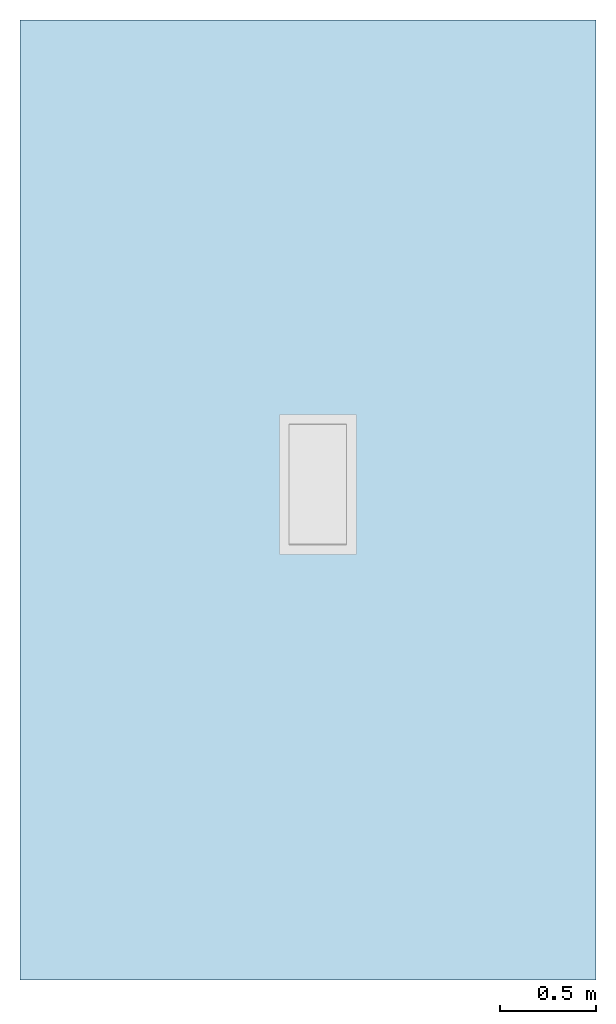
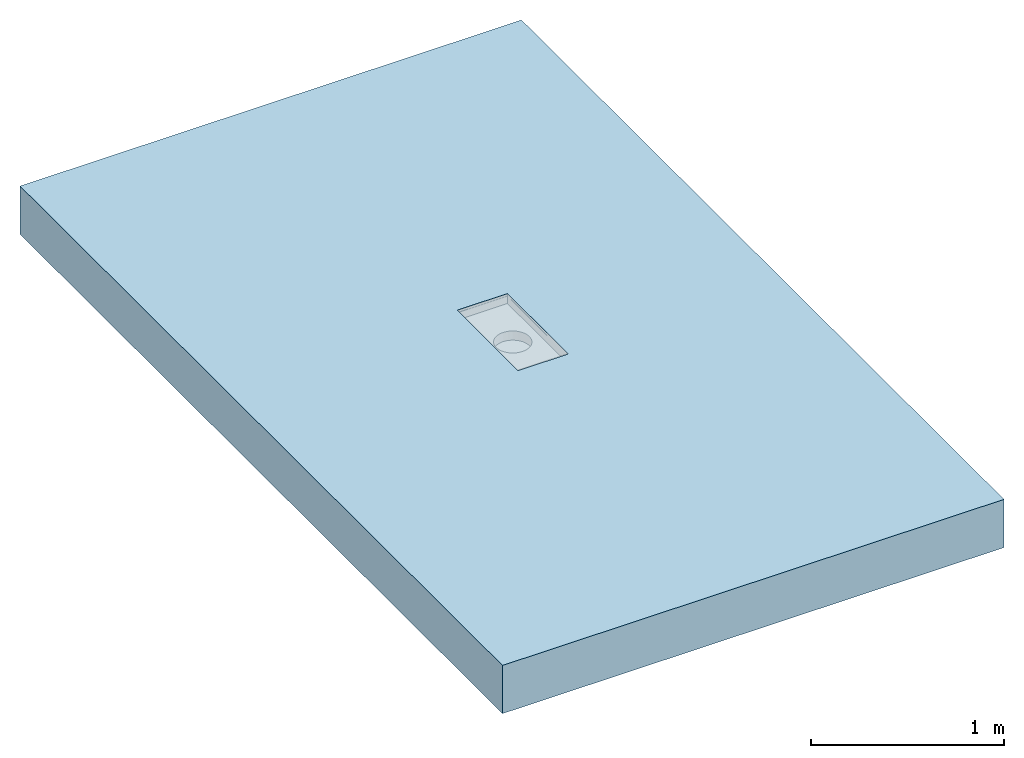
# One storey, incomplete: 1 slab, 1 opening.
"""IFC2X3 building model written with IfcOpenShell, lengths in millimetres."""

from ifc_helpers import new_model, entity, si_unit, converted_unit, derived_unit, direction, frame, frame_2d, origin, place, context, subcontext, project, spatial, rectangle, extrude, faceted_brep, material, layer, layer_set, layer_usage, element, save


model = new_model("IFC2X3")

# Units and contexts
model_context = context("Model", 3, precision=1e-05, world=origin(), true_north=direction((2.0, 6.12303176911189e-17, 1.0)))
context_of_model = context(None, 3, precision=1e-05, world=origin(), true_north=direction((2.0, 6.12303176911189e-17, 1.0)))
body_context = subcontext(model_context, "Body", "Model", "MODEL_VIEW")
ifc_project = project(units=[si_unit("LENGTHUNIT", "METRE", prefix="MILLI"), converted_unit("AREAUNIT", "SQUARE FOOT", entity("IfcRatioMeasure", 0.09290304), si_unit("AREAUNIT", "SQUARE_METRE"), dimensions=[2, 0, 0, 0, 0, 0, 0]), converted_unit("VOLUMEUNIT", "CUBIC FOOT", entity("IfcRatioMeasure", 0.028316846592), si_unit("VOLUMEUNIT", "CUBIC_METRE"), dimensions=[3, 0, 0, 0, 0, 0, 0]), converted_unit("PLANEANGLEUNIT", "DEGREE", entity("IfcRatioMeasure", 0.0174532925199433), si_unit("PLANEANGLEUNIT", "RADIAN"), dimensions=[0, 0, 0, 0, 0, 0, 0]), si_unit("MASSUNIT", "GRAM", prefix="KILO"), si_unit("TIMEUNIT", "SECOND"), si_unit("THERMODYNAMICTEMPERATUREUNIT", "KELVIN"), derived_unit("THERMALTRANSMITTANCEUNIT", [(si_unit("MASSUNIT", "GRAM", prefix="KILO"), 1), (si_unit("THERMODYNAMICTEMPERATUREUNIT", "KELVIN"), -1), (si_unit("TIMEUNIT", "SECOND"), -3)]), derived_unit("VOLUMETRICFLOWRATEUNIT", [(si_unit("LENGTHUNIT", "METRE"), 3), (si_unit("TIMEUNIT", "SECOND"), -1)]), si_unit("POWERUNIT", "WATT")], contexts=[model_context, context_of_model])

# Site, building, storey
site_placement = place(None, origin())
site = spatial("IfcSite", under=ifc_project, at=site_placement, Name="Default", CompositionType="ELEMENT")
building_placement = place(site_placement, origin())
building = spatial("IfcBuilding", under=site, at=building_placement, CompositionType="ELEMENT")
storey_placement = place(building_placement, origin())
storey = spatial("IfcBuildingStorey", under=building, at=storey_placement, Name="Level 1", CompositionType="ELEMENT", Elevation=0.0)

# Slab, opening
ifc_material = material(Name="Default Floor")
ifc_layer = layer(ifc_material, 304.8)
ifc_layer_set = layer_set([ifc_layer], Name="Floor:Generic - 12\"")
ifc_layer_usage = layer_usage(ifc_layer_set, "AXIS3", "POSITIVE", 0.0)
slab_placement = place(storey_placement, frame((-2592.42688678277, 381.838531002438, -304.8)))
slab = element("IfcSlab", 1, at=slab_placement, inside=storey, material=ifc_layer_usage, Name="Floor:Generic - 12\"", ObjectType="Floor:Generic - 12\"", PredefinedType="FLOOR", context=body_context, shape_type="SweptSolid", body=[
    extrude(rectangle(XDim=5000.0, YDim=3000.0, at=frame_2d((0.0, 0.0), x_axis=(0.0, -1.0))), frame((1500.0, 2500.0, 304.8), z_axis=(0.0, 0.0, -1.0), x_axis=(-1.0, 0.0, 0.0)), (0.0, 0.0, 1.0), 304.8),
])
opening_placement = place(slab_placement, frame((1351.43050141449, 2216.3260104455, 184.151793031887)))
element("IfcOpeningElement", 2, at=opening_placement, cuts=slab, ObjectType="Recess", context=body_context, shape_type="Brep", body=[
    faceted_brep([(350.0, 50.0, 57.8482069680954), (350.0, 50.0, 104.148206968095), (50.0, 50.0, 57.8482069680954), (50.0, 50.0, 104.148206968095), (350.0, 50.0, 105.648206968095), (350.0, 50.0, 120.648206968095), (50.0, 50.0, 105.648206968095), (50.0, 50.0, 120.648206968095), (50.0, 680.0, 105.648206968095), (50.0, 680.0, 120.648206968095), (50.0, 680.0, 57.8482069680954), (50.0, 680.0, 104.148206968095), (350.0, 680.0, 57.8482069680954), (350.0, 680.0, 104.148206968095), (350.0, 680.0, 120.648206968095), (350.0, 680.0, 105.648206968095), (150.0, 278.397459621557, 57.8482069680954), (174.118095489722, 268.407417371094, 57.8482069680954), (129.289321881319, 294.289321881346, 57.8482069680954), (200.0, 265.0, 57.8482069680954), (100.0, 365.0, 57.8482069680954), (103.407417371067, 339.118095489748, 57.8482069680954), (113.39745962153, 315.0, 57.8482069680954), (225.881904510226, 268.407417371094, 57.8482069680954), (250.0, 278.397459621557, 57.8482069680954), (270.710678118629, 294.289321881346, 57.8482069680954), (286.602540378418, 315.0, 57.8482069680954), (296.59258262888, 339.118095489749, 57.8482069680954), (300.0, 365.0, 57.8482069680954), (113.39745962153, 415.0, 57.8482069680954), (103.407417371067, 390.881904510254, 57.8482069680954), (129.28932188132, 435.710678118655, 57.8482069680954), (150.0, 451.602540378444, 57.8482069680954), (174.118095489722, 461.592582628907, 57.8482069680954), (200.0, 465.0, 57.8482069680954), (296.592582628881, 390.881904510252, 57.8482069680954), (286.602540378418, 415.0, 57.8482069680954), (250.0, 451.602540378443, 57.8482069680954), (225.881904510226, 461.592582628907, 57.8482069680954), (270.710678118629, 435.710678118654, 57.8482069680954), (174.118095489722, 268.407417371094, 0.0), (174.118095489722, 461.592582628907, 0.0), (200.0, 265.0, 0.0), (150.0, 278.397459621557, 0.0), (113.39745962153, 415.0, 0.0), (129.289321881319, 294.289321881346, 0.0), (113.39745962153, 315.0, 0.0), (270.710678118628, 435.710678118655, 0.0), (225.881904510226, 268.407417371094, 0.0), (250.0, 278.397459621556, 0.0), (270.710678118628, 294.289321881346, 0.0), (296.59258262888, 339.118095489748, 0.0), (296.59258262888, 390.881904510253, 0.0), (300.0, 365.0, 0.0), (286.602540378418, 315.0, 0.0), (103.407417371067, 339.118095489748, 0.0), (103.407417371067, 390.881904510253, 0.0), (150.0, 451.602540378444, 0.0), (129.289321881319, 435.710678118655, 0.0), (200.0, 465.0, 0.0), (286.602540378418, 415.0, 0.0), (225.881904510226, 461.592582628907, 0.0), (250.0, 451.602540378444, 0.0), (100.0, 365.0, 0.0), (0.0, 730.0, 105.648206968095), (400.0, 730.0, 105.648206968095), (0.0, 0.0, 105.648206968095), (400.0, 0.0, 105.648206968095), (0.0, 0.0, 104.148206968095), (400.0, 0.0, 104.148206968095), (0.0, 730.0, 104.148206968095), (400.0, 730.0, 104.148206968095)], [[[0, 1, 2]], [[3, 2, 1]], [[4, 5, 6]], [[7, 6, 5]], [[6, 7, 8]], [[9, 8, 7]], [[10, 11, 12]], [[13, 12, 11]], [[5, 4, 14]], [[15, 14, 4]], [[1, 0, 13]], [[12, 13, 0]], [[2, 3, 10]], [[11, 10, 3]], [[8, 9, 15]], [[14, 15, 9]], [[7, 5, 14]], [[14, 9, 7]], [[2, 16, 17]], [[16, 2, 18]], [[2, 17, 19]], [[20, 21, 2]], [[22, 18, 2]], [[21, 22, 2]], [[2, 10, 20]], [[0, 19, 23]], [[19, 0, 2]], [[0, 23, 24]], [[24, 25, 0]], [[26, 27, 0]], [[25, 26, 0]], [[0, 27, 28]], [[29, 30, 10]], [[31, 29, 10]], [[32, 10, 33]], [[10, 32, 31]], [[34, 33, 10]], [[10, 12, 34]], [[30, 20, 10]], [[35, 36, 12]], [[28, 35, 12]], [[37, 38, 12]], [[39, 12, 36]], [[12, 39, 37]], [[38, 34, 12]], [[28, 12, 0]], [[40, 41, 42]], [[43, 41, 40]], [[44, 45, 46]], [[45, 41, 43]], [[42, 47, 48]], [[49, 47, 50]], [[47, 49, 48]], [[51, 52, 53]], [[54, 52, 51]], [[54, 50, 47]], [[55, 44, 46]], [[56, 44, 55]], [[44, 57, 45]], [[41, 45, 57]], [[57, 44, 58]], [[41, 59, 42]], [[60, 52, 54]], [[47, 60, 54]], [[47, 61, 62]], [[61, 47, 59]], [[59, 47, 42]], [[55, 63, 56]], [[52, 35, 53]], [[60, 36, 52]], [[37, 47, 62]], [[60, 47, 39]], [[38, 62, 61]], [[52, 36, 35]], [[35, 28, 53]], [[38, 37, 62]], [[39, 47, 37]], [[39, 36, 60]], [[34, 38, 61]], [[61, 59, 34]], [[32, 57, 58]], [[29, 44, 56]], [[58, 44, 31]], [[30, 56, 63]], [[41, 32, 33]], [[41, 57, 32]], [[33, 34, 41]], [[58, 31, 32]], [[44, 29, 31]], [[30, 29, 56]], [[63, 20, 30]], [[41, 34, 59]], [[55, 21, 63]], [[46, 22, 55]], [[16, 45, 43]], [[46, 45, 18]], [[17, 43, 40]], [[55, 22, 21]], [[21, 20, 63]], [[17, 16, 43]], [[18, 45, 16]], [[18, 22, 46]], [[19, 17, 40]], [[40, 42, 19]], [[23, 48, 49]], [[50, 24, 49]], [[26, 54, 51]], [[50, 54, 25]], [[27, 51, 53]], [[48, 23, 42]], [[49, 24, 23]], [[42, 23, 19]], [[50, 25, 24]], [[54, 26, 25]], [[27, 26, 51]], [[53, 28, 27]], [[64, 8, 15]], [[8, 64, 6]], [[65, 15, 4]], [[15, 65, 64]], [[6, 66, 4]], [[66, 6, 64]], [[4, 67, 65]], [[67, 4, 66]], [[68, 3, 1]], [[3, 68, 11]], [[69, 1, 13]], [[1, 69, 68]], [[11, 70, 13]], [[70, 11, 68]], [[13, 71, 69]], [[71, 13, 70]], [[66, 64, 70]], [[70, 68, 66]], [[67, 66, 68]], [[68, 69, 67]], [[65, 67, 69]], [[69, 71, 65]], [[64, 65, 71]], [[71, 70, 64]]]),
])

save(model, "model.ifc")
